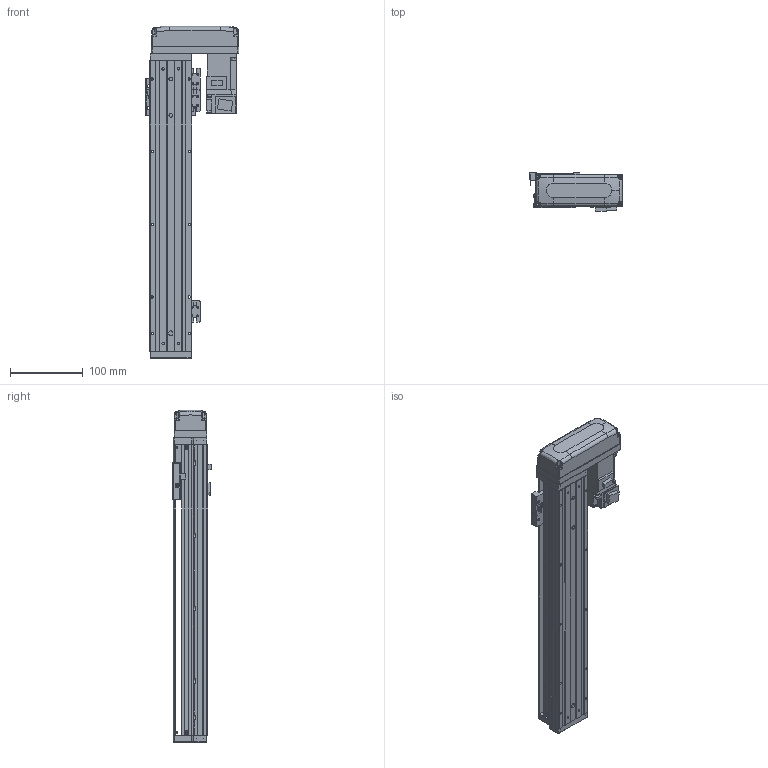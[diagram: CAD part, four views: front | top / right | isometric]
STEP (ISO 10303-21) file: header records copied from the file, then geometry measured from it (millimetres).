
FILE_DESCRIPTION (( 'STEP AP203' ), '1' );
FILE_NAME ('KTHA50-300-BL-M10-C4L.step', '2022-03-19T07:06:08', ( '微软用户' ), ( '微软中国' ), 'SwSTEP 2.0', 'SolidWorks 2020', '' );
FILE_SCHEMA (( 'CONFIG_CONTROL_DESIGN' ));
Length unit declared in the file: millimetre
Products named in the file (18): GBT 70.3-M3℅6; GBT77-2000 M3×3; HG-KR13（三菱）; KTHA50-001_400; GBT 70.1-M3℅6; CTHA50-015-2_CTHA60-015-2; KTHA50-002; CTHA60-017; CTHA60-033; KTHA50-004; GBT 70.1-M4×12; GBT 70.1-M3×15; KTHA50-005; CTHA60-016; KTHA50-300-BL-M10-C4L; GB¨uT 70.2-M3¡Á6_M3¡Á6; CTHA60-021; EE_SX911P_R
Assembly tree (53 placements, depth 2):
  KTHA50-300-BL-M10-C4L
    KTHA50-001_400
    KTHA50-002
    KTHA50-004
    KTHA50-005
    GB¨uT 70.2-M3¡Á6_M3¡Á6  x6
    EE_SX911P_R  x3
    GBT77-2000 M3×3  x6
    GBT 70.1-M3℅6  x6
    CTHA60-017  x3
    GBT 70.1-M4×12  x10
    CTHA60-016  x2
    CTHA60-021  x2
    GBT 70.3-M3℅6  x4
    HG-KR13（三菱）
    CTHA50-015-2_CTHA60-015-2
    CTHA60-033
    GBT 70.1-M3×15  x4
Bounding box: 128.4 x 53.3 x 457 mm (x, y, z)
Volume: 1027924.3 mm3; surface area: 253062.7 mm2
Topology: 56 solids, 56 shells, 2243 faces, 5295 edges, 3244 vertices
Faces by surface type: plane 1252, cylinder 544, cone 305, torus 100, bspline 26, sphere 16
Entity records: 37589 total; most frequent: CARTESIAN_POINT 7122, DIRECTION 5855, ORIENTED_EDGE 5602, EDGE_CURVE 2801, AXIS2_PLACEMENT_3D 1993, LINE 1869, VECTOR 1869, VERTEX_POINT 1758
